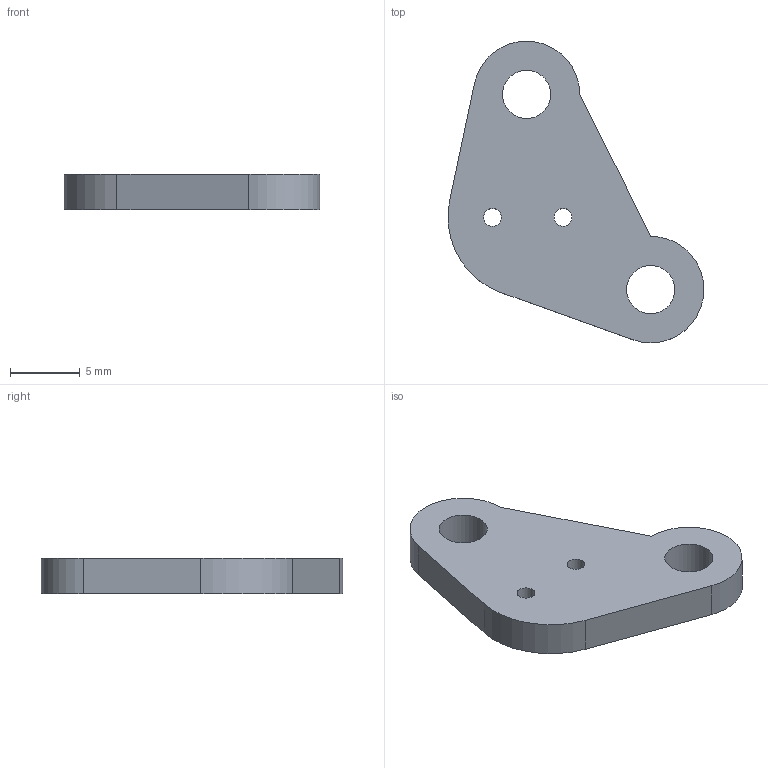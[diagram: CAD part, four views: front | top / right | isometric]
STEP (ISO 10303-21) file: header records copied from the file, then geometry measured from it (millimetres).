
FILE_DESCRIPTION (( 'STEP AP203' ), '1' );
FILE_NAME ('Shoulder Bracket.step', '2015-03-14T23:36:16', ( '' ), ( '' ), 'SwSTEP 2.0', 'SolidWorks 2013', '' );
FILE_SCHEMA (( 'CONFIG_CONTROL_DESIGN' ));
Length unit declared in the file: inch
Products named in the file (1): Shoulder Bracket
Bounding box: 18.32 x 21.59 x 2.54 mm (x, y, z)
Volume: 539 mm3; surface area: 658.9 mm2
Topology: 1 solids, 1 shells, 12 faces, 30 edges, 20 vertices
Faces by surface type: cylinder 7, plane 5
Full cylindrical faces by diameter (mm): 1.27 x2, 3.454 x2
Entity records: 443 total; most frequent: DIRECTION 66, CARTESIAN_POINT 59, ORIENTED_EDGE 52, AXIS2_PLACEMENT_3D 27, EDGE_CURVE 26, EDGE_LOOP 24, VERTEX_POINT 20, FACE_OUTER_BOUND 16
